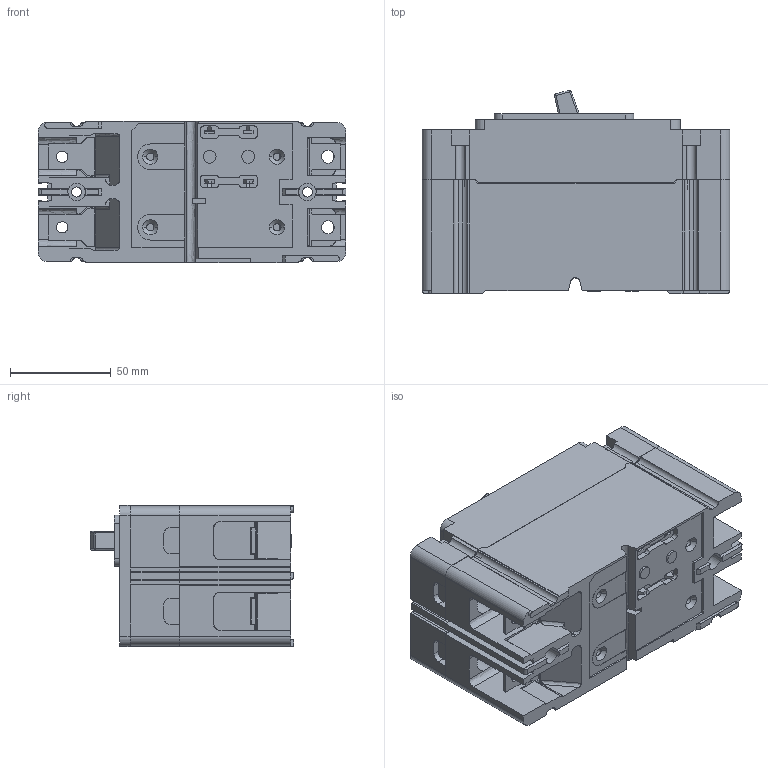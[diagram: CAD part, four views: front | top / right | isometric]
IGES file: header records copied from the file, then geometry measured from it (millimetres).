
Start section:  PTC IGES file: /data/CUSTOMERS/EATON/Eaton-Penn/translation-050503/iges /fd_2p_shrinkwrap.igs
Global section: file name: /data/CUSTOMERS/EATON/Eaton-Penn/translation-050503/iges/fd_2p_shrinkwrap.igs; native system: Pro/ENGINEER by Parametric Technology Corporation; preprocessor: 2001150; author: hopkin_m; organization: Unknown; date: 030508.115048; units: inch
Bounding box: 152.4 x 100.72 x 69.85 mm (x, y, z)
Surface area: 145372.5 mm2 (no closed solid volume)
Topology: 0 solids, 0 shells, 725 faces, 4269 edges, 4267 vertices
Faces by surface type: bspline 485, revolution 240
